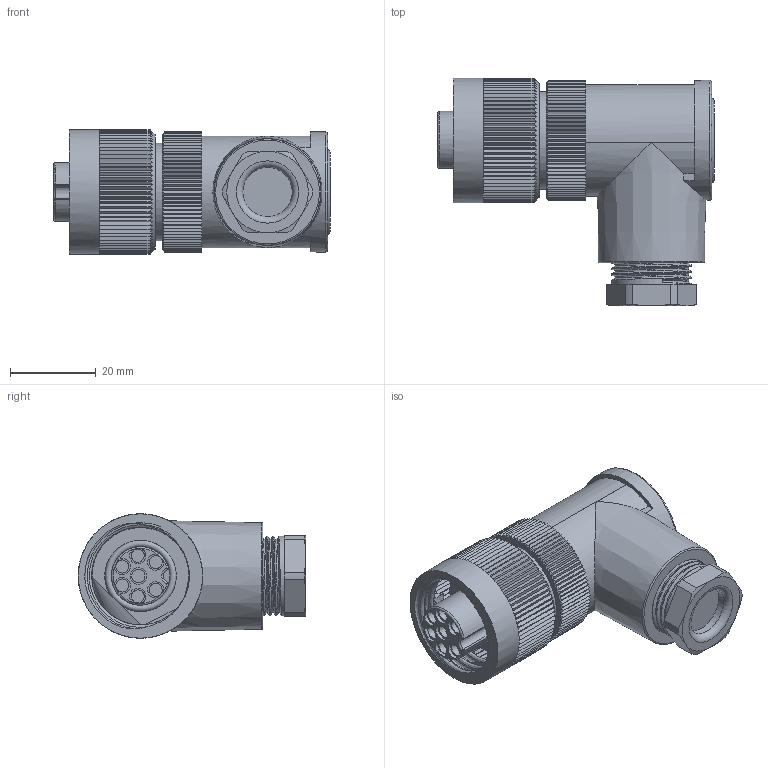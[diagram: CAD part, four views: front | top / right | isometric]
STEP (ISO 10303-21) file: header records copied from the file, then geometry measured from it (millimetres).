
FILE_DESCRIPTION(/* description */ (''),/* implementation_level */ '2;1');
FILE_NAME(/* name */ '99 0202 210 07 001_00.stp',/* time_stamp */ '2017-07-17T14:08:52+02:00',/* author */ (''),/* organization */ (''),/* preprocessor_version */ 'ST-DEVELOPER v16',/* originating_system */ 'SIEMENS PLM Software NX 11.0',/* authorisation */ '');
FILE_SCHEMA (('AUTOMOTIVE_DESIGN { 1 0 10303 214 3 1 1 1 }'));
Length unit declared in the file: millimetre
Products named in the file (1): smag0900B9A98bcl
Bounding box: 64.4 x 53 x 29 mm (x, y, z)
Surface area: 15218.9 mm2 (no closed solid volume)
Topology: 0 solids, 1 shells, 614 faces, 1613 edges, 1011 vertices
Faces by surface type: plane 432, cone 102, cylinder 49, bspline 18, torus 13
Full cylindrical faces by diameter (mm): 3.05 x7, 3.8 x1, 11.5 x1, 13.6 x1, 18.9 x1, 22.6 x1, 22.8 x1, 24.1 x1, 26 x1, 26.2 x1, 28 x1, 29 x1
Entity records: 27380 total; most frequent: CARTESIAN_POINT 13339, ORIENTED_EDGE 3104, DIRECTION 2545, EDGE_CURVE 1552, VERTEX_POINT 992, AXIS2_PLACEMENT_3D 857, LINE 831, VECTOR 831
